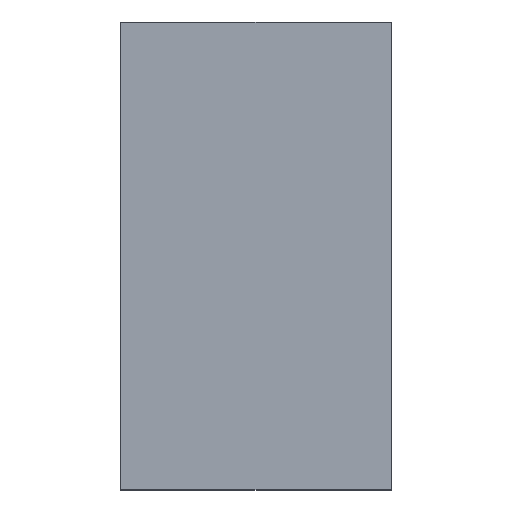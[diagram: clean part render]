
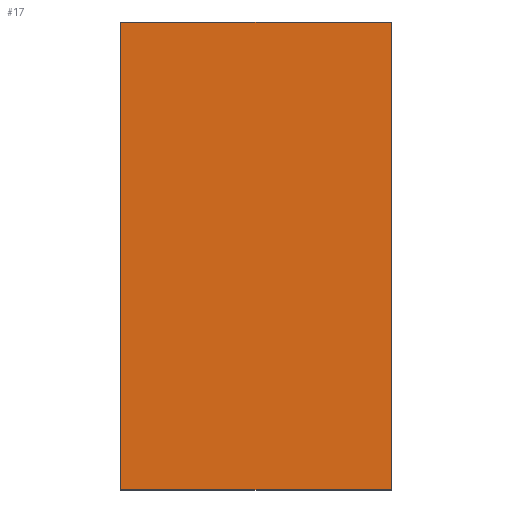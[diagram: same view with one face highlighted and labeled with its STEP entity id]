
A CAD part, top view. The second image highlights one B-rep face of the part: STEP entity #17.
In plain terms, the highlighted planar face has unit normal (0, 0, 1).
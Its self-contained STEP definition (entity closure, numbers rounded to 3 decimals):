
#17 = ADVANCED_FACE('',(#18),#32,.T.);
#18 = FACE_BOUND('',#19,.T.);
#19 = EDGE_LOOP('',(#20,#55,#83,#111));
#20 = ORIENTED_EDGE('',*,*,#21,.T.);
#21 = EDGE_CURVE('',#22,#24,#26,.T.);
#22 = VERTEX_POINT('',#23);
#23 = CARTESIAN_POINT('',(-36.7,12.5,-12.2));
#24 = VERTEX_POINT('',#25);
#25 = CARTESIAN_POINT('',(-31.5,12.5,-12.2));
#26 = SURFACE_CURVE('',#27,(#31,#43),.PCURVE_S1.);
#27 = LINE('',#28,#29);
#28 = CARTESIAN_POINT('',(-34.35,12.5,-12.2));
#29 = VECTOR('',#30,1.);
#30 = DIRECTION('',(1.,0.,0.));
#31 = PCURVE('',#32,#37);
#32 = PLANE('',#33);
#33 = AXIS2_PLACEMENT_3D('',#34,#35,#36);
#34 = CARTESIAN_POINT('',(-34.35,17.,-12.2));
#35 = DIRECTION('',(0.,0.,1.));
#36 = DIRECTION('',(1.,0.,-0.));
#37 = DEFINITIONAL_REPRESENTATION('',(#38),#42);
#38 = LINE('',#39,#40);
#39 = CARTESIAN_POINT('',(0.,-4.5));
#40 = VECTOR('',#41,1.);
#41 = DIRECTION('',(1.,0.));
#42 = ( GEOMETRIC_REPRESENTATION_CONTEXT(2) 
PARAMETRIC_REPRESENTATION_CONTEXT() REPRESENTATION_CONTEXT('2D SPACE',''
  ) );
#43 = PCURVE('',#44,#49);
#44 = PLANE('',#45);
#45 = AXIS2_PLACEMENT_3D('',#46,#47,#48);
#46 = CARTESIAN_POINT('',(-34.35,12.5,-12.45));
#47 = DIRECTION('',(0.,1.,0.));
#48 = DIRECTION('',(0.,-0.,1.));
#49 = DEFINITIONAL_REPRESENTATION('',(#50),#54);
#50 = LINE('',#51,#52);
#51 = CARTESIAN_POINT('',(0.25,0.));
#52 = VECTOR('',#53,1.);
#53 = DIRECTION('',(0.,1.));
#54 = ( GEOMETRIC_REPRESENTATION_CONTEXT(2) 
PARAMETRIC_REPRESENTATION_CONTEXT() REPRESENTATION_CONTEXT('2D SPACE',''
  ) );
#55 = ORIENTED_EDGE('',*,*,#56,.T.);
#56 = EDGE_CURVE('',#24,#57,#59,.T.);
#57 = VERTEX_POINT('',#58);
#58 = CARTESIAN_POINT('',(-31.5,21.5,-12.2));
#59 = SURFACE_CURVE('',#60,(#64,#71),.PCURVE_S1.);
#60 = LINE('',#61,#62);
#61 = CARTESIAN_POINT('',(-31.5,17.,-12.2));
#62 = VECTOR('',#63,1.);
#63 = DIRECTION('',(0.,1.,0.));
#64 = PCURVE('',#32,#65);
#65 = DEFINITIONAL_REPRESENTATION('',(#66),#70);
#66 = LINE('',#67,#68);
#67 = CARTESIAN_POINT('',(2.85,0.));
#68 = VECTOR('',#69,1.);
#69 = DIRECTION('',(0.,1.));
#70 = ( GEOMETRIC_REPRESENTATION_CONTEXT(2) 
PARAMETRIC_REPRESENTATION_CONTEXT() REPRESENTATION_CONTEXT('2D SPACE',''
  ) );
#71 = PCURVE('',#72,#77);
#72 = PLANE('',#73);
#73 = AXIS2_PLACEMENT_3D('',#74,#75,#76);
#74 = CARTESIAN_POINT('',(-31.5,17.,-12.45));
#75 = DIRECTION('',(-1.,0.,0.));
#76 = DIRECTION('',(0.,0.,1.));
#77 = DEFINITIONAL_REPRESENTATION('',(#78),#82);
#78 = LINE('',#79,#80);
#79 = CARTESIAN_POINT('',(0.25,0.));
#80 = VECTOR('',#81,1.);
#81 = DIRECTION('',(0.,1.));
#82 = ( GEOMETRIC_REPRESENTATION_CONTEXT(2) 
PARAMETRIC_REPRESENTATION_CONTEXT() REPRESENTATION_CONTEXT('2D SPACE',''
  ) );
#83 = ORIENTED_EDGE('',*,*,#84,.T.);
#84 = EDGE_CURVE('',#57,#85,#87,.T.);
#85 = VERTEX_POINT('',#86);
#86 = CARTESIAN_POINT('',(-36.7,21.5,-12.2));
#87 = SURFACE_CURVE('',#88,(#92,#99),.PCURVE_S1.);
#88 = LINE('',#89,#90);
#89 = CARTESIAN_POINT('',(-34.35,21.5,-12.2));
#90 = VECTOR('',#91,1.);
#91 = DIRECTION('',(-1.,0.,0.));
#92 = PCURVE('',#32,#93);
#93 = DEFINITIONAL_REPRESENTATION('',(#94),#98);
#94 = LINE('',#95,#96);
#95 = CARTESIAN_POINT('',(0.,4.5));
#96 = VECTOR('',#97,1.);
#97 = DIRECTION('',(-1.,0.));
#98 = ( GEOMETRIC_REPRESENTATION_CONTEXT(2) 
PARAMETRIC_REPRESENTATION_CONTEXT() REPRESENTATION_CONTEXT('2D SPACE',''
  ) );
#99 = PCURVE('',#100,#105);
#100 = PLANE('',#101);
#101 = AXIS2_PLACEMENT_3D('',#102,#103,#104);
#102 = CARTESIAN_POINT('',(-34.35,21.5,-12.45));
#103 = DIRECTION('',(0.,-1.,0.));
#104 = DIRECTION('',(0.,0.,-1.));
#105 = DEFINITIONAL_REPRESENTATION('',(#106),#110);
#106 = LINE('',#107,#108);
#107 = CARTESIAN_POINT('',(-0.25,0.));
#108 = VECTOR('',#109,1.);
#109 = DIRECTION('',(0.,-1.));
#110 = ( GEOMETRIC_REPRESENTATION_CONTEXT(2) 
PARAMETRIC_REPRESENTATION_CONTEXT() REPRESENTATION_CONTEXT('2D SPACE',''
  ) );
#111 = ORIENTED_EDGE('',*,*,#112,.F.);
#112 = EDGE_CURVE('',#22,#85,#113,.T.);
#113 = SURFACE_CURVE('',#114,(#118,#124),.PCURVE_S1.);
#114 = LINE('',#115,#116);
#115 = CARTESIAN_POINT('',(-36.7,-6.5,-12.2));
#116 = VECTOR('',#117,1.);
#117 = DIRECTION('',(-0.,1.,0.));
#118 = PCURVE('',#32,#119);
#119 = DEFINITIONAL_REPRESENTATION('',(#120),#123);
#120 = B_SPLINE_CURVE_WITH_KNOTS('',1,(#121,#122),.UNSPECIFIED.,.F.,.F.,
  (2,2),(19.,28.),.PIECEWISE_BEZIER_KNOTS.);
#121 = CARTESIAN_POINT('',(-2.35,-4.5));
#122 = CARTESIAN_POINT('',(-2.35,4.5));
#123 = ( GEOMETRIC_REPRESENTATION_CONTEXT(2) 
PARAMETRIC_REPRESENTATION_CONTEXT() REPRESENTATION_CONTEXT('2D SPACE',''
  ) );
#124 = PCURVE('',#125,#130);
#125 = PLANE('',#126);
#126 = AXIS2_PLACEMENT_3D('',#127,#128,#129);
#127 = CARTESIAN_POINT('',(-36.7,-30.,-50.));
#128 = DIRECTION('',(1.,0.,-0.));
#129 = DIRECTION('',(0.,0.,1.));
#130 = DEFINITIONAL_REPRESENTATION('',(#131),#134);
#131 = B_SPLINE_CURVE_WITH_KNOTS('',1,(#132,#133),.UNSPECIFIED.,.F.,.F.,
  (2,2),(19.,28.),.PIECEWISE_BEZIER_KNOTS.);
#132 = CARTESIAN_POINT('',(37.8,-42.5));
#133 = CARTESIAN_POINT('',(37.8,-51.5));
#134 = ( GEOMETRIC_REPRESENTATION_CONTEXT(2) 
PARAMETRIC_REPRESENTATION_CONTEXT() REPRESENTATION_CONTEXT('2D SPACE',''
  ) );
